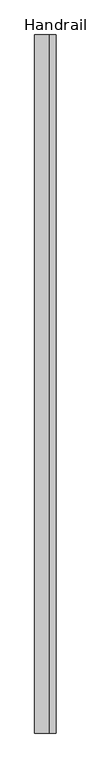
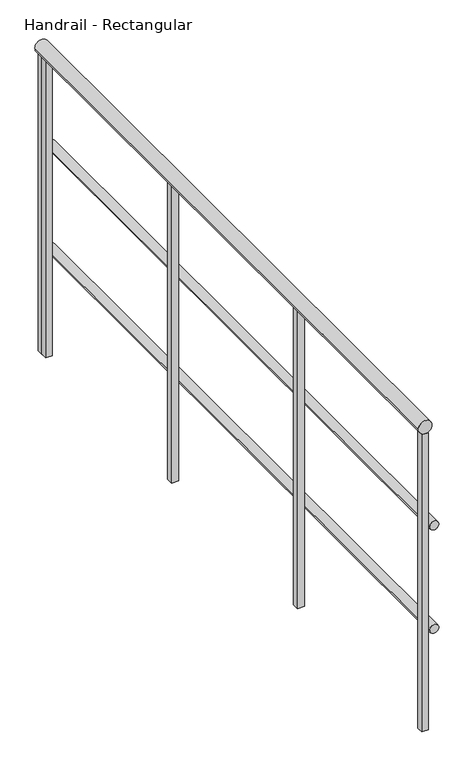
"""IFC4 building model written with IfcOpenShell, lengths in millimetres: railing geometry, Handrail - Rectangular."""

from ifc_helpers import new_model, si_unit, point, frame, frame_2d, origin, place, context, project, spatial, polyline, circle_curve, trimmed, segment, composite_curve, outline, extrude, source, transform, mapped, element, save


def handrail_rectangular_b5dfc41f(model_context):
    return source(origin(), model_context, "Body", "SweptSolid", [
        extrude(outline(composite_curve([segment(trimmed(circle_curve(frame_2d((9740.9, 2322.5410437)), 12.7), [point((9740.9, 2335.2410437))], [point((9740.9, 2309.8410437))], False, "CARTESIAN"), True, "CONTINUOUS"), segment(trimmed(circle_curve(frame_2d((9740.9, 2322.5410437)), 12.7), [point((9740.9, 2309.8410437))], [point((9740.9, 2335.2410437))], False, "CARTESIAN"), True, "CONTINUOUS")], self_intersect=False)), frame((0.0, -30041.3683133, 0.0), z_axis=(0.0, 1.0, 0.0), x_axis=(0.0, 0.0, 1.0)), (0.0, 0.0, 1.0), 1854.2),
        extrude(outline(composite_curve([segment(trimmed(circle_curve(frame_2d((9436.1, 2322.5410437)), 12.7), [point((9436.1, 2335.2410437))], [point((9436.1, 2309.8410437))], False, "CARTESIAN"), True, "CONTINUOUS"), segment(trimmed(circle_curve(frame_2d((9436.1, 2322.5410437)), 12.7), [point((9436.1, 2309.8410437))], [point((9436.1, 2335.2410437))], False, "CARTESIAN"), True, "CONTINUOUS")], self_intersect=False)), frame((0.0, -30041.3683133, 0.0), z_axis=(0.0, 1.0, 0.0), x_axis=(0.0, 0.0, 1.0)), (0.0, 0.0, 1.0), 1854.2),
        extrude(outline(composite_curve([segment(trimmed(circle_curve(frame_2d((10039.35, 2297.1410437)), 19.05), [point((10039.35, 2316.1910437))], [point((10039.35, 2278.0910437))], False, "CARTESIAN"), True, "CONTINUOUS"), segment(trimmed(circle_curve(frame_2d((10039.35, 2297.1410437)), 19.05), [point((10039.35, 2278.0910437))], [point((10039.35, 2316.1910437))], False, "CARTESIAN"), True, "CONTINUOUS")], self_intersect=False)), frame((0.0, -30041.3683133, 0.0), z_axis=(0.0, 1.0, 0.0), x_axis=(0.0, 0.0, 1.0)), (0.0, 0.0, 1.0), 1854.2),
        extrude(outline(polyline([(2287.6160437, -28222.0933133), (2287.6160437, -28203.0433133), (2306.6660437, -28203.0433133), (2306.6660437, -28222.0933133), (2287.6160437, -28222.0933133)])), frame((0.0, 0.0, 9144.0), z_axis=(0.0, 0.0, 1.0), x_axis=(1.0, 0.0, 0.0)), (0.0, 0.0, 1.0), 876.3),
        extrude(outline(polyline([(2287.6160437, -28831.6933133), (2287.6160437, -28812.6433133), (2306.6660437, -28812.6433133), (2306.6660437, -28831.6933133), (2287.6160437, -28831.6933133)])), frame((0.0, 0.0, 9144.0), z_axis=(0.0, 0.0, 1.0), x_axis=(1.0, 0.0, 0.0)), (0.0, 0.0, 1.0), 876.3),
        extrude(outline(polyline([(2287.6160437, -29441.2933133), (2287.6160437, -29422.2433133), (2306.6660437, -29422.2433133), (2306.6660437, -29441.2933133), (2287.6160437, -29441.2933133)])), frame((0.0, 0.0, 9144.0), z_axis=(0.0, 0.0, 1.0), x_axis=(1.0, 0.0, 0.0)), (0.0, 0.0, 1.0), 876.3),
        extrude(outline(polyline([(2287.6160437, -28206.2183133), (2287.6160437, -28187.1683133), (2306.6660437, -28187.1683133), (2306.6660437, -28206.2183133), (2287.6160437, -28206.2183133)])), frame((0.0, 0.0, 9144.0), z_axis=(0.0, 0.0, 1.0), x_axis=(1.0, 0.0, 0.0)), (0.0, 0.0, 1.0), 876.3),
        extrude(outline(polyline([(2287.6160437, -30041.3683133), (2287.6160437, -30022.3183133), (2306.6660437, -30022.3183133), (2306.6660437, -30041.3683133), (2287.6160437, -30041.3683133)])), frame((0.0, 0.0, 9144.0), z_axis=(0.0, 0.0, 1.0), x_axis=(1.0, 0.0, 0.0)), (0.0, 0.0, 1.0), 876.3),
    ])


if __name__ == "__main__":
    model = new_model("IFC4")
    model_context = context("Model", 3, world=origin())
    ifc_project = project(units=[si_unit("LENGTHUNIT", "METRE", prefix="MILLI")], contexts=[model_context])
    site = spatial("IfcSite", under=ifc_project)
    building = spatial("IfcBuilding", under=site)
    placement = place(None, origin())
    handrail_rectangular_shape = handrail_rectangular_b5dfc41f(model_context)
    element("IfcRailing", 1, ObjectType="Handrail - Rectangular", at=placement, inside=building, context=model_context, shape_type="MappedRepresentation", body=[
        mapped(handrail_rectangular_shape, transform((0.0, 0.0, 0.0), x_axis=(1.0, 0.0, 0.0), y_axis=(0.0, 1.0, 0.0), z_axis=(0.0, 0.0, 1.0))),
    ])
    save(model, "model.ifc")
